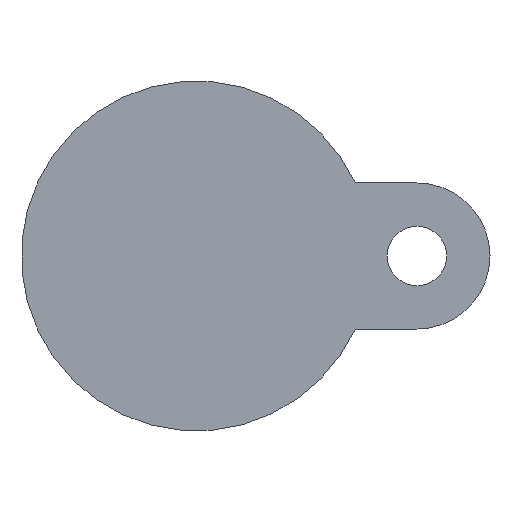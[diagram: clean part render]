
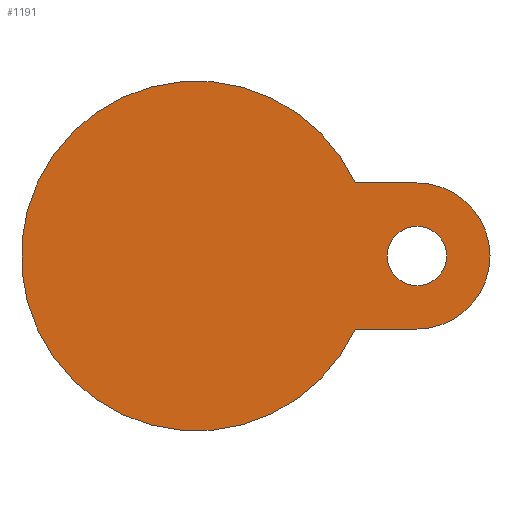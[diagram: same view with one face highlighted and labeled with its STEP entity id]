
A CAD part, front view. The second image highlights one B-rep face of the part: STEP entity #1191.
In plain terms, the highlighted planar face has unit normal (0, -1, 0).
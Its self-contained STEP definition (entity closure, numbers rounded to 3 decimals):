
#51 = EDGE_CURVE ( 'NONE', #552, #1025, #1096, .T. ) ;
#145 = DIRECTION ( 'NONE',  ( 0., 1., 0. ) ) ;
#197 = DIRECTION ( 'NONE',  ( 0., 1., 0. ) ) ;
#220 = DIRECTION ( 'NONE',  ( -1., 0., 0. ) ) ;
#470 = FACE_OUTER_BOUND ( 'NONE', #714, .T. ) ;
#552 = VERTEX_POINT ( 'NONE', #1873 ) ;
#613 = CARTESIAN_POINT ( 'NONE',  ( 46.797, -28., 21.5 ) ) ;
#643 = CARTESIAN_POINT ( 'NONE',  ( 65., -28., 21.5 ) ) ;
#645 = VERTEX_POINT ( 'NONE', #4011 ) ;
#714 = EDGE_LOOP ( 'NONE', ( #2010, #4377, #3061, #4231 ) ) ;
#800 = LINE ( 'NONE', #2191, #2817 ) ;
#813 = AXIS2_PLACEMENT_3D ( 'NONE', #2944, #145, #2864 ) ;
#834 = DIRECTION ( 'NONE',  ( 1., 0., 0. ) ) ;
#871 = VERTEX_POINT ( 'NONE', #2689 ) ;
#933 = AXIS2_PLACEMENT_3D ( 'NONE', #3223, #2541, #834 ) ;
#969 = EDGE_CURVE ( 'NONE', #3213, #2291, #800, .T. ) ;
#1025 = VERTEX_POINT ( 'NONE', #2101 ) ;
#1096 = CIRCLE ( 'NONE', #813, 8.75 ) ;
#1191 = ADVANCED_FACE ( 'NONE', ( #2185, #470 ), #1846, .T. ) ;
#1348 = EDGE_LOOP ( 'NONE', ( #2161, #4100 ) ) ;
#1642 = DIRECTION ( 'NONE',  ( 1., 0., 0. ) ) ;
#1643 = CIRCLE ( 'NONE', #4455, 21.5 ) ;
#1649 = CARTESIAN_POINT ( 'NONE',  ( 0., -28., 0. ) ) ;
#1793 = EDGE_CURVE ( 'NONE', #645, #871, #2668, .T. ) ;
#1846 = PLANE ( 'NONE',  #933 ) ;
#1873 = CARTESIAN_POINT ( 'NONE',  ( 73.75, -28., 0. ) ) ;
#2010 = ORIENTED_EDGE ( 'NONE', *, *, #3228, .T. ) ;
#2101 = CARTESIAN_POINT ( 'NONE',  ( 56.25, -28., 0. ) ) ;
#2161 = ORIENTED_EDGE ( 'NONE', *, *, #3059, .T. ) ;
#2185 = FACE_BOUND ( 'NONE', #1348, .T. ) ;
#2191 = CARTESIAN_POINT ( 'NONE',  ( 41.5, -28., 21.5 ) ) ;
#2291 = VERTEX_POINT ( 'NONE', #643 ) ;
#2437 = AXIS2_PLACEMENT_3D ( 'NONE', #1649, #3094, #4068 ) ;
#2541 = DIRECTION ( 'NONE',  ( 0., -1., 0. ) ) ;
#2668 = LINE ( 'NONE', #4359, #4204 ) ;
#2689 = CARTESIAN_POINT ( 'NONE',  ( 46.797, -28., -21.5 ) ) ;
#2817 = VECTOR ( 'NONE', #3529, 1000. ) ;
#2864 = DIRECTION ( 'NONE',  ( -1., 0., 0. ) ) ;
#2944 = CARTESIAN_POINT ( 'NONE',  ( 65., -28., 0. ) ) ;
#3059 = EDGE_CURVE ( 'NONE', #1025, #552, #3446, .T. ) ;
#3061 = ORIENTED_EDGE ( 'NONE', *, *, #3176, .F. ) ;
#3094 = DIRECTION ( 'NONE',  ( 0., -1., 0. ) ) ;
#3176 = EDGE_CURVE ( 'NONE', #2291, #645, #1643, .T. ) ;
#3213 = VERTEX_POINT ( 'NONE', #613 ) ;
#3223 = CARTESIAN_POINT ( 'NONE',  ( 51.5, -28., 0. ) ) ;
#3228 = EDGE_CURVE ( 'NONE', #3213, #871, #4379, .T. ) ;
#3313 = CARTESIAN_POINT ( 'NONE',  ( 65., -28., 0. ) ) ;
#3446 = CIRCLE ( 'NONE', #3888, 8.75 ) ;
#3529 = DIRECTION ( 'NONE',  ( 1., 0., 0. ) ) ;
#3659 = DIRECTION ( 'NONE',  ( -1., 0., 0. ) ) ;
#3888 = AXIS2_PLACEMENT_3D ( 'NONE', #3910, #4012, #220 ) ;
#3910 = CARTESIAN_POINT ( 'NONE',  ( 65., -28., 0. ) ) ;
#4011 = CARTESIAN_POINT ( 'NONE',  ( 65., -28., -21.5 ) ) ;
#4012 = DIRECTION ( 'NONE',  ( 0., 1., 0. ) ) ;
#4068 = DIRECTION ( 'NONE',  ( 1., 0., 0. ) ) ;
#4100 = ORIENTED_EDGE ( 'NONE', *, *, #51, .T. ) ;
#4204 = VECTOR ( 'NONE', #3659, 1000. ) ;
#4231 = ORIENTED_EDGE ( 'NONE', *, *, #969, .F. ) ;
#4359 = CARTESIAN_POINT ( 'NONE',  ( 41.5, -28., -21.5 ) ) ;
#4377 = ORIENTED_EDGE ( 'NONE', *, *, #1793, .F. ) ;
#4379 = CIRCLE ( 'NONE', #2437, 51.5 ) ;
#4455 = AXIS2_PLACEMENT_3D ( 'NONE', #3313, #197, #1642 ) ;
